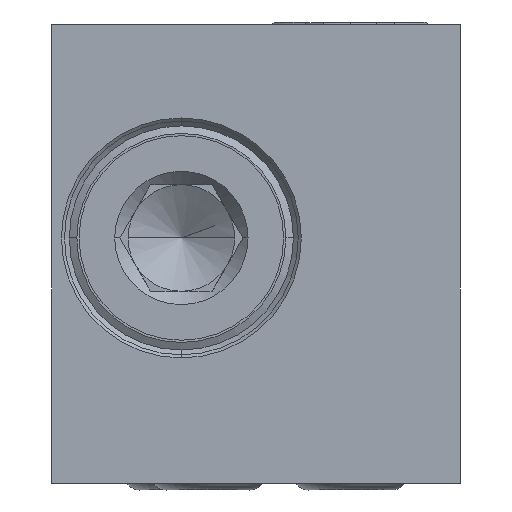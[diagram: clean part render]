
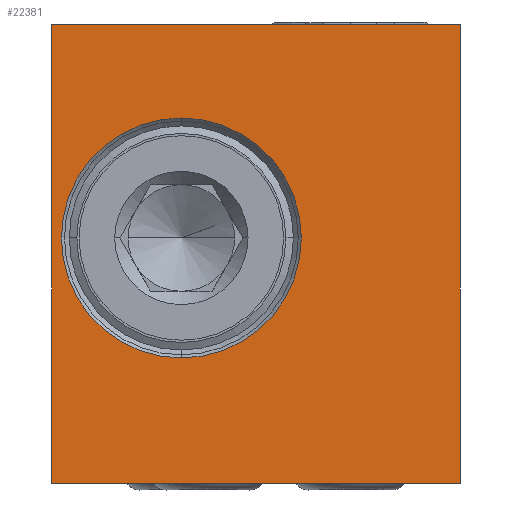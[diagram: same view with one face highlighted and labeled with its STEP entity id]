
A CAD part, left-side view. The second image highlights one B-rep face of the part: STEP entity #22381.
In plain terms, the highlighted planar face has unit normal (-1, 0, 0).
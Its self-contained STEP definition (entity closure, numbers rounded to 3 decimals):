
#4137=DIRECTION('',(0.,0.,1.));
#4138=VECTOR('',#4137,25.8);
#4139=CARTESIAN_POINT('',(-38.,11.5,-12.9));
#4140=LINE('',#4139,#4138);
#4141=DIRECTION('',(0.,-1.,0.));
#4142=VECTOR('',#4141,23.);
#4143=CARTESIAN_POINT('',(-38.,11.5,12.9));
#4144=LINE('',#4143,#4142);
#4145=DIRECTION('',(0.,0.,-1.));
#4146=VECTOR('',#4145,25.8);
#4147=CARTESIAN_POINT('',(-38.,-11.5,12.9));
#4148=LINE('',#4147,#4146);
#4149=DIRECTION('',(0.,1.,0.));
#4150=VECTOR('',#4149,23.);
#4151=CARTESIAN_POINT('',(-38.,-11.5,-12.9));
#4152=LINE('',#4151,#4150);
#4153=CARTESIAN_POINT('',(-38.,4.2,0.9));
#4154=DIRECTION('',(-1.,0.,0.));
#4155=DIRECTION('',(0.,0.,-1.));
#4156=AXIS2_PLACEMENT_3D('',#4153,#4154,#4155);
#4158=CARTESIAN_POINT('',(-38.,4.2,0.9));
#4159=DIRECTION('',(-1.,0.,0.));
#4160=DIRECTION('',(0.,0.,1.));
#4161=AXIS2_PLACEMENT_3D('',#4158,#4159,#4160);
#15319=CARTESIAN_POINT('',(-38.,11.5,12.9));
#15320=VERTEX_POINT('',#15319);
#15321=CARTESIAN_POINT('',(-38.,11.5,-12.9));
#15322=VERTEX_POINT('',#15321);
#15323=CARTESIAN_POINT('',(-38.,-11.5,12.9));
#15324=VERTEX_POINT('',#15323);
#15345=CARTESIAN_POINT('',(-38.,-11.5,-12.9));
#15346=VERTEX_POINT('',#15345);
#15391=CARTESIAN_POINT('',(-38.,4.2,-5.85));
#15392=CARTESIAN_POINT('',(-38.,4.2,7.65));
#15393=VERTEX_POINT('',#15391);
#15394=VERTEX_POINT('',#15392);
#22362=CARTESIAN_POINT('',(-38.,0.,0.));
#22363=DIRECTION('',(-1.,0.,0.));
#22364=DIRECTION('',(0.,-1.,0.));
#22365=AXIS2_PLACEMENT_3D('',#22362,#22363,#22364);
#22366=PLANE('',#22365);
#22367=ORIENTED_EDGE('',*,*,#22355,.T.);
#22368=ORIENTED_EDGE('',*,*,#20081,.T.);
#22370=ORIENTED_EDGE('',*,*,#22369,.T.);
#22372=ORIENTED_EDGE('',*,*,#22371,.T.);
#22373=EDGE_LOOP('',(#22367,#22368,#22370,#22372));
#22374=FACE_OUTER_BOUND('',#22373,.F.);
#22376=ORIENTED_EDGE('',*,*,#22375,.T.);
#22378=ORIENTED_EDGE('',*,*,#22377,.T.);
#22379=EDGE_LOOP('',(#22376,#22378));
#22380=FACE_BOUND('',#22379,.F.);
#22381=ADVANCED_FACE('',(#22374,#22380),#22366,.T.);
#4157=CIRCLE('',#4156,6.75);
#4162=CIRCLE('',#4161,6.75);
#20081=EDGE_CURVE('',#15320,#15324,#4144,.T.);
#22355=EDGE_CURVE('',#15322,#15320,#4140,.T.);
#22369=EDGE_CURVE('',#15324,#15346,#4148,.T.);
#22371=EDGE_CURVE('',#15346,#15322,#4152,.T.);
#22375=EDGE_CURVE('',#15393,#15394,#4157,.T.);
#22377=EDGE_CURVE('',#15394,#15393,#4162,.T.);
